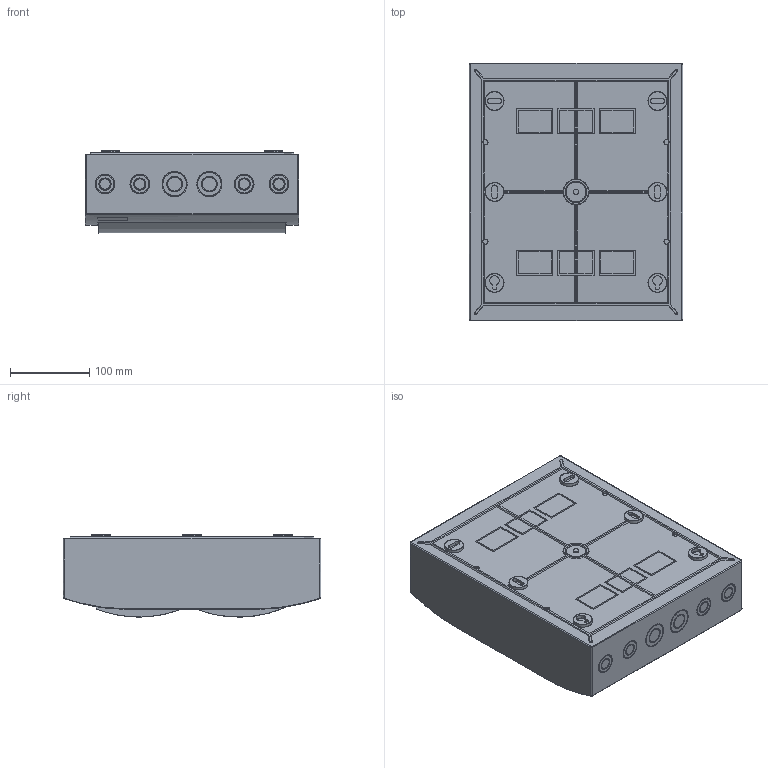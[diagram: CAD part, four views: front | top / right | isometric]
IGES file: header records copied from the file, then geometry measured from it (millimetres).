
Start section: SolidWorks IGES file using analytic representation for surfaces
Global section: file name: Q:\GROUPS\BR_SC_JGS_WA_TECNICO\ENG\Usuarios\Rodrigob\conversão\Linha Predial\Produto\Quadros QDW\QDW\QDW02-S\QDW02-24-S\QDW02-24-S.IGS; native system: SolidWorks 2012; preprocessor: SolidWorks 2012; author: rodrigob; date: 140320.142628; units: millimetre
Bounding box: 270 x 326 x 104.05 mm (x, y, z)
Surface area: 430239 mm2 (no closed solid volume)
Topology: 0 solids, 0 shells, 557 faces, 8614 edges, 8604 vertices
Faces by surface type: bspline 320, revolution 237
